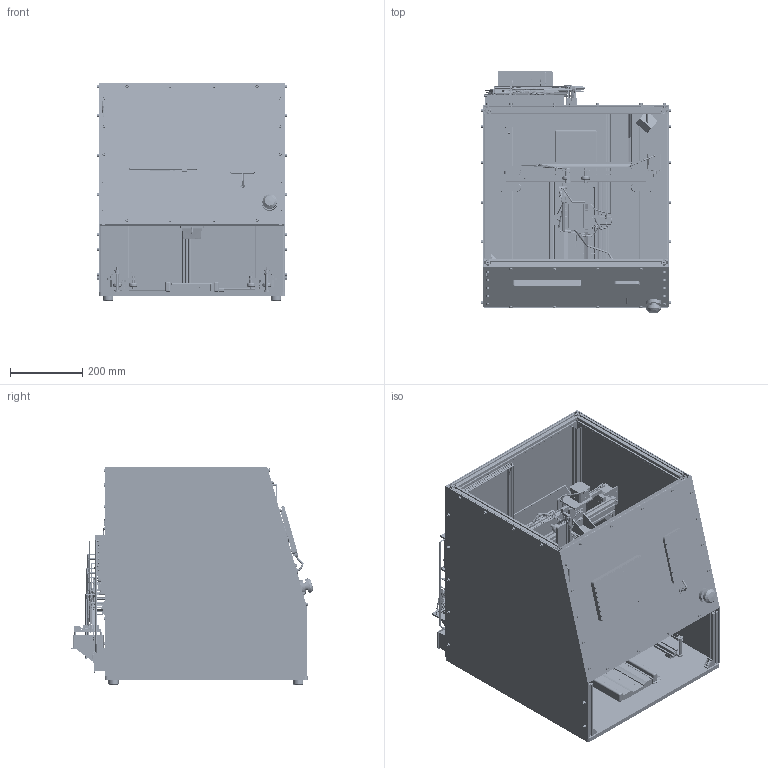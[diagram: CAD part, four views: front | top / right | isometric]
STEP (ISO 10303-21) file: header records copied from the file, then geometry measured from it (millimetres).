
FILE_DESCRIPTION(('Open CASCADE Model'),'2;1');
FILE_NAME('Open CASCADE Shape Model','2026-11-24T00:55:32',('Author'),( 'Open CASCADE'),'Open CASCADE STEP processor 7.9','Open CASCADE 7.9' ,'Unknown');
FILE_SCHEMA(('AUTOMOTIVE_DESIGN { 1 0 10303 214 1 1 1 1 }'));
Length unit declared in the file: millimetre
Products named in the file (415): UltraVena_rig_butterfly; wiring; wire_inlet_to_psu; wire_psu_to_fuse_block; wire_fuse_to_12V_converter; wire_fuse_to_5V_converter; wire_12V_to_jetson; wire_servo_converter_to_bus_adapter; wire_hub_to_servo_bus_adapter; wire_5V_to_usb_hub; wire_jetson_to_usb_hub; wire_hub_to_teensy; wire_hub_to_motion_controller; wire_fuse_to_estop; wire_estop_return_to_bus; wire_estop_bus_to_servo_converter; wire_estop_bus_to_6V_converter; wire_estop_bus_to_motion_controller; wire_5V_to_touchscreen; wire_hub_to_touchscreen_touch; wire_jetson_hdmi_to_touchscreen; wire_5V_to_magsafe_puck; wire_hub_to_depth_camera_1; wire_hub_to_depth_camera_2; wire_12V_to_led_strips; wire_led_jumper_back_to_left; wire_led_jumper_back_to_right; wire_led_jumper_left_to_front; wire_controller_to_y_stepper_left; wire_controller_to_y_stepper_right; wire_controller_to_limit_switch_y; wire_teensy_to_pressure_pad_1; wire_teensy_to_pressure_pad_2; wire_teensy_to_pressure_pad_3; wire_teensy_to_pressure_pad_4; wire_teensy_to_pressure_pad_5; wire_teensy_to_pressure_pad_6; wire_teensy_to_wrist_band_socket; wire_controller_to_x_stepper; wire_controller_to_limit_switch_x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
Assembly tree (590 placements, depth 10):
  UltraVena_rig_butterfly
    wiring
      wire_inlet_to_psu
      wire_psu_to_fuse_block
      wire_fuse_to_12V_converter
      wire_fuse_to_5V_converter
      wire_12V_to_jetson
      wire_servo_converter_to_bus_adapter
      wire_hub_to_servo_bus_adapter
      wire_5V_to_usb_hub
      wire_jetson_to_usb_hub
      wire_hub_to_teensy
      wire_hub_to_motion_controller
      wire_fuse_to_estop
      wire_estop_return_to_bus
      wire_estop_bus_to_servo_converter
      wire_estop_bus_to_6V_converter
      wire_estop_bus_to_motion_controller
      wire_5V_to_touchscreen
      wire_hub_to_touchscreen_touch
      wire_jetson_hdmi_to_touchscreen
      wire_5V_to_magsafe_puck
      wire_hub_to_depth_camera_1
      wire_hub_to_depth_camera_2
      wire_12V_to_led_strips
      wire_led_jumper_back_to_left
      wire_led_jumper_back_to_right
      wire_led_jumper_left_to_front
      wire_controller_to_y_stepper_left
      wire_controller_to_y_stepper_right
      wire_controller_to_limit_switch_y
      wire_teensy_to_pressure_pad_1
      wire_teensy_to_pressure_pad_2
      wire_teensy_to_pressure_pad_3
      wire_teensy_to_pressure_pad_4
      wire_teensy_to_pressure_pad_5
      wire_teensy_to_pressure_pad_6
      wire_teensy_to_wrist_band_socket
      wire_controller_to_x_stepper
      wire_controller_to_limit_switch_x
      wire_controller_to_z_stepper
      wire_controller_to_limit_switch_z
      wire_teensy_to_load_cell_amp
      wire_load_cell_to_amp
      wire_teensy_to_overtravel_switch
      wire_servo_bus_adapter_to_yaw_servo
      wire_servo_bus_yaw_to_pitch
      wire_servo_bus_pitch_to_roll
      wire_teensy_to_tilt_sensor
      wire_6V_to_marker_actuator
      wire_teensy_to_marker_actuator_signal
      wire_probe_cable_to_phone
    electronics_bay
      psu_24V_350W
        psu_24V_350W__case
        psu_24V_350W__internals
        psu_24V_350W__terminal_block
        psu_24V_350W__terminal_screws
      fuse_block
        fuse_block__base
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Bounding box: 526 x 670.93 x 604 mm (x, y, z)
Volume: 12933921.7 mm3; surface area: 5894239.4 mm2
Topology: 3276 solids, 3276 shells, 12670 faces, 20953 edges, 13756 vertices
Faces by surface type: plane 8359, cylinder 2841, sphere 1415, cone 31, bspline 24
Full cylindrical faces by diameter (mm): 2 x677, 2.2 x68, 2.4 x120, 2.5 x16, 2.6 x41, 2.8 x16, 3 x239, 3.2 x20, 3.4 x52, 3.5 x10, 3.6 x64, 3.8 x183, 4 x149, 4.2 x40, 4.4 x27, 4.8 x8, 5 x104, 5.1 x38, 5.2 x141, 5.4 x110, 6 x45, 6.2 x10, 6.4 x2, 6.8 x2, 8 x50, 8.4 x8, 8.5 x90, 10 x38, 10.2 x2, 10.4 x1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
Entity records: 560727 total; most frequent: CARTESIAN_POINT 168874, DIRECTION 75245, LINE 32997, VECTOR 32997, ORIENTED_EDGE 31016, PCURVE 31016, DEFINITIONAL_REPRESENTATION 31016, AXIS2_PLACEMENT_3D 18569
